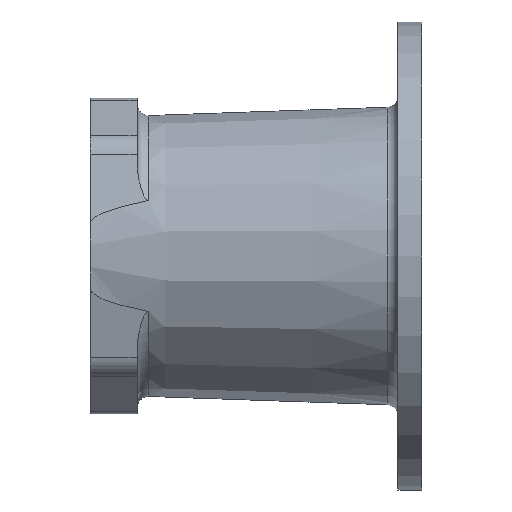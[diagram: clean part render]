
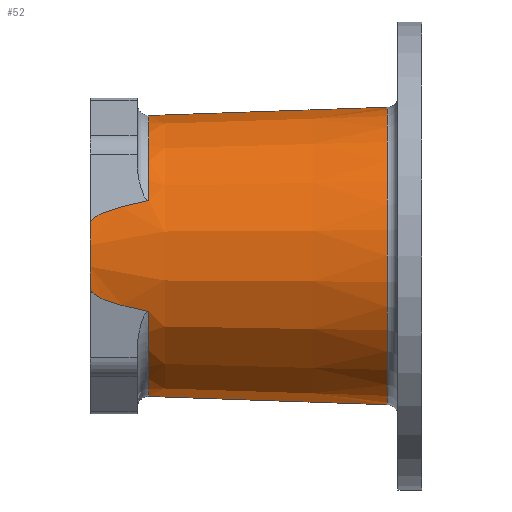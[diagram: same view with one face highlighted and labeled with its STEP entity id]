
A CAD part, left-side view. The second image highlights one B-rep face of the part: STEP entity #52.
In plain terms, the highlighted conical face has half-angle 2 degrees and reference radius 56.333 mm.
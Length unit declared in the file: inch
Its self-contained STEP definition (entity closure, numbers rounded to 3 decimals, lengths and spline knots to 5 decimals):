
#52 = ADVANCED_FACE ( 'NONE', ( #3719 ), #585, .T. ) ;
#63 = VECTOR ( 'NONE', #2436, 39.37008 ) ;
#119 = B_SPLINE_CURVE_WITH_KNOTS ( 'NONE', 3,
 ( #3454, #2888, #3480, #153, #4054, #717, #4653, #1272, #5259, #1827, #5841, #2377, #6401, #2941, #6942, #3499, #181, #4082, #739, #4683, #1297, #5290 ),
 .UNSPECIFIED., .F., .F.,
 ( 4, 2, 2, 2, 2, 2, 2, 2, 2, 2, 4 ),
 ( -0.00484, 0.00179, 0.00842, 0.01174, 0.01505, 0.01671, 0.01837, 0.0192, 0.02003, 0.02086, 0.02169 ),
 .UNSPECIFIED. ) ;
#128 = CARTESIAN_POINT ( 'NONE',  ( 0., 5.31, 0. ) ) ;
#153 = CARTESIAN_POINT ( 'NONE',  ( -2.0851, 4.71328, 0.81514 ) ) ;
#179 = VERTEX_POINT ( 'NONE', #2240 ) ;
#181 = CARTESIAN_POINT ( 'NONE',  ( -2.14041, 5.28003, 0.58497 ) ) ;
#250 = LINE ( 'NONE', #778, #1714 ) ;
#371 = CARTESIAN_POINT ( 'NONE',  ( 0., 4.37372, 0. ) ) ;
#456 = CARTESIAN_POINT ( 'NONE',  ( -2.15385, 5.31, -0.52902 ) ) ;
#474 = CARTESIAN_POINT ( 'NONE',  ( -2.12125, 5.16429, -0.6647 ) ) ;
#585 = CONICAL_SURFACE ( 'NONE', #2895, 2.21784, 0.035 ) ;
#691 = DIRECTION ( 'NONE',  ( 0., 0., -1. ) ) ;
#717 = CARTESIAN_POINT ( 'NONE',  ( -2.09905, 4.92252, 0.75707 ) ) ;
#739 = CARTESIAN_POINT ( 'NONE',  ( -2.14664, 5.29925, 0.55905 ) ) ;
#750 = ORIENTED_EDGE ( 'NONE', *, *, #6912, .T. ) ;
#778 = CARTESIAN_POINT ( 'NONE',  ( 0., 5.31, 2.21784 ) ) ;
#918 = CARTESIAN_POINT ( 'NONE',  ( -2.15645, 5.31, 0.51819 ) ) ;
#930 = CARTESIAN_POINT ( 'NONE',  ( 0., 0.55372, -2.38393 ) ) ;
#939 = DIRECTION ( 'NONE',  ( 0., 0., 1. ) ) ;
#1014 = AXIS2_PLACEMENT_3D ( 'NONE', #3245, #7252, #3809 ) ;
#1024 = CARTESIAN_POINT ( 'NONE',  ( -2.15134, 5.30758, -0.53948 ) ) ;
#1047 = CARTESIAN_POINT ( 'NONE',  ( -2.11267, 5.08578, -0.70039 ) ) ;
#1056 = AXIS2_PLACEMENT_3D ( 'NONE', #371, #4281, #939 ) ;
#1272 = CARTESIAN_POINT ( 'NONE',  ( -2.10903, 5.04592, 0.71555 ) ) ;
#1297 = CARTESIAN_POINT ( 'NONE',  ( -2.15388, 5.31, 0.52892 ) ) ;
#1494 = AXIS2_PLACEMENT_3D ( 'NONE', #2435, #6466, #2998 ) ;
#1568 = CARTESIAN_POINT ( 'NONE',  ( -2.15645, 5.31, -0.51819 ) ) ;
#1569 = CARTESIAN_POINT ( 'NONE',  ( -2.14439, 5.29328, -0.5684 ) ) ;
#1580 = ORIENTED_EDGE ( 'NONE', *, *, #2328, .T. ) ;
#1585 = CARTESIAN_POINT ( 'NONE',  ( -2.10214, 4.96343, -0.74422 ) ) ;
#1666 = B_SPLINE_CURVE_WITH_KNOTS ( 'NONE', 3,
 ( #4370, #456, #1024, #4979, #1569, #5581, #2115, #6135, #2675, #6695, #3234, #7234, #3797, #474, #4401, #1047, #5004, #1585, #5602, #2141, #6157, #2704, #6719, #3256 ),
 .UNSPECIFIED., .F., .F.,
 ( 4, 2, 2, 2, 2, 2, 2, 2, 2, 2, 2, 4 ),
 ( 0., 0.00083, 0.00167, 0.0025, 0.00333, 0.00417, 0.005, 0.00667, 0.01, 0.01334, 0.02001, 0.02668 ),
 .UNSPECIFIED. ) ;
#1714 = VECTOR ( 'NONE', #1849, 39.37008 ) ;
#1827 = CARTESIAN_POINT ( 'NONE',  ( -2.11911, 5.14581, 0.6736 ) ) ;
#1849 = DIRECTION ( 'NONE',  ( 0., -0.999, 0.035 ) ) ;
#2115 = CARTESIAN_POINT ( 'NONE',  ( -2.13847, 5.27209, -0.59305 ) ) ;
#2141 = CARTESIAN_POINT ( 'NONE',  ( -2.09021, 4.79714, -0.79386 ) ) ;
#2208 = ORIENTED_EDGE ( 'NONE', *, *, #4943, .T. ) ;
#2240 = CARTESIAN_POINT ( 'NONE',  ( -2.06715, 4.37372, -0.88983 ) ) ;
#2269 = CARTESIAN_POINT ( 'NONE',  ( -2.06715, 4.37372, 0.88983 ) ) ;
#2328 = EDGE_CURVE ( 'NONE', #6532, #4613, #4546, .T. ) ;
#2377 = CARTESIAN_POINT ( 'NONE',  ( -2.12631, 5.20334, 0.64364 ) ) ;
#2435 = CARTESIAN_POINT ( 'NONE',  ( 0., 0.55372, 0. ) ) ;
#2436 = DIRECTION ( 'NONE',  ( 0., -0.999, -0.035 ) ) ;
#2588 = ORIENTED_EDGE ( 'NONE', *, *, #3042, .T. ) ;
#2675 = CARTESIAN_POINT ( 'NONE',  ( -2.13341, 5.2475, -0.61409 ) ) ;
#2704 = CARTESIAN_POINT ( 'NONE',  ( -2.07559, 4.54393, -0.8547 ) ) ;
#2888 = CARTESIAN_POINT ( 'NONE',  ( -2.07125, 4.45898, 0.87279 ) ) ;
#2895 = AXIS2_PLACEMENT_3D ( 'NONE', #6680, #6610, #6729 ) ;
#2939 = EDGE_CURVE ( 'NONE', #2978, #5282, #3937, .T. ) ;
#2941 = CARTESIAN_POINT ( 'NONE',  ( -2.1335, 5.24801, 0.6137 ) ) ;
#2978 = VERTEX_POINT ( 'NONE', #7159 ) ;
#2998 = DIRECTION ( 'NONE',  ( 0., 0., -1. ) ) ;
#3022 = LINE ( 'NONE', #6467, #63 ) ;
#3042 = EDGE_CURVE ( 'NONE', #179, #5105, #6832, .T. ) ;
#3176 = ORIENTED_EDGE ( 'NONE', *, *, #6739, .T. ) ;
#3234 = CARTESIAN_POINT ( 'NONE',  ( -2.12893, 5.22071, -0.63272 ) ) ;
#3245 = CARTESIAN_POINT ( 'NONE',  ( 0., 4.37372, 0. ) ) ;
#3256 = CARTESIAN_POINT ( 'NONE',  ( -2.06715, 4.37372, -0.88983 ) ) ;
#3454 = CARTESIAN_POINT ( 'NONE',  ( -2.06715, 4.37372, 0.88983 ) ) ;
#3480 = CARTESIAN_POINT ( 'NONE',  ( -2.0756, 4.54403, 0.85468 ) ) ;
#3498 = ORIENTED_EDGE ( 'NONE', *, *, #6731, .T. ) ;
#3499 = CARTESIAN_POINT ( 'NONE',  ( -2.13854, 5.27242, 0.59273 ) ) ;
#3719 = FACE_OUTER_BOUND ( 'NONE', #4548, .T. ) ;
#3797 = CARTESIAN_POINT ( 'NONE',  ( -2.12494, 5.19281, -0.64935 ) ) ;
#3809 = DIRECTION ( 'NONE',  ( 0., 0., 1. ) ) ;
#3937 = CIRCLE ( 'NONE', #1056, 2.25054 ) ;
#3941 = VERTEX_POINT ( 'NONE', #1568 ) ;
#4030 = DIRECTION ( 'NONE',  ( 0., -1., 0. ) ) ;
#4054 = CARTESIAN_POINT ( 'NONE',  ( -2.09024, 4.79754, 0.79376 ) ) ;
#4082 = CARTESIAN_POINT ( 'NONE',  ( -2.14443, 5.29339, 0.56822 ) ) ;
#4220 = CARTESIAN_POINT ( 'NONE',  ( 0., 4.37372, -2.25054 ) ) ;
#4237 = ORIENTED_EDGE ( 'NONE', *, *, #4929, .F. ) ;
#4281 = DIRECTION ( 'NONE',  ( 0., -1., 0. ) ) ;
#4370 = CARTESIAN_POINT ( 'NONE',  ( -2.15645, 5.31, -0.51819 ) ) ;
#4401 = CARTESIAN_POINT ( 'NONE',  ( -2.119, 5.14487, -0.67404 ) ) ;
#4546 = CIRCLE ( 'NONE', #1494, 2.38393 ) ;
#4548 = EDGE_LOOP ( 'NONE', ( #4237, #6462, #3176, #3498, #750, #2588, #2208, #1580 ) ) ;
#4580 = VERTEX_POINT ( 'NONE', #918 ) ;
#4613 = VERTEX_POINT ( 'NONE', #6625 ) ;
#4653 = CARTESIAN_POINT ( 'NONE',  ( -2.10218, 4.96393, 0.74406 ) ) ;
#4683 = CARTESIAN_POINT ( 'NONE',  ( -2.15133, 5.30755, 0.53951 ) ) ;
#4929 = EDGE_CURVE ( 'NONE', #2978, #4613, #250, .T. ) ;
#4943 = EDGE_CURVE ( 'NONE', #5105, #6532, #3022, .T. ) ;
#4979 = CARTESIAN_POINT ( 'NONE',  ( -2.14656, 5.29909, -0.55937 ) ) ;
#5004 = CARTESIAN_POINT ( 'NONE',  ( -2.10898, 5.04536, -0.71576 ) ) ;
#5105 = VERTEX_POINT ( 'NONE', #4220 ) ;
#5259 = CARTESIAN_POINT ( 'NONE',  ( -2.11273, 5.08646, 0.70013 ) ) ;
#5282 = VERTEX_POINT ( 'NONE', #2269 ) ;
#5290 = CARTESIAN_POINT ( 'NONE',  ( -2.15645, 5.31, 0.51819 ) ) ;
#5523 = CIRCLE ( 'NONE', #6212, 2.21784 ) ;
#5581 = CARTESIAN_POINT ( 'NONE',  ( -2.14033, 5.27973, -0.58531 ) ) ;
#5602 = CARTESIAN_POINT ( 'NONE',  ( -2.09901, 4.92198, -0.75723 ) ) ;
#5841 = CARTESIAN_POINT ( 'NONE',  ( -2.12137, 5.1653, 0.6642 ) ) ;
#6135 = CARTESIAN_POINT ( 'NONE',  ( -2.13501, 5.256, -0.60742 ) ) ;
#6157 = CARTESIAN_POINT ( 'NONE',  ( -2.08509, 4.71303, -0.8152 ) ) ;
#6212 = AXIS2_PLACEMENT_3D ( 'NONE', #128, #4030, #691 ) ;
#6401 = CARTESIAN_POINT ( 'NONE',  ( -2.12899, 5.2219, 0.6325 ) ) ;
#6462 = ORIENTED_EDGE ( 'NONE', *, *, #2939, .T. ) ;
#6466 = DIRECTION ( 'NONE',  ( 0., 1., 0. ) ) ;
#6467 = CARTESIAN_POINT ( 'NONE',  ( 0., 5.31, -2.21784 ) ) ;
#6532 = VERTEX_POINT ( 'NONE', #930 ) ;
#6610 = DIRECTION ( 'NONE',  ( 0., -1., 0. ) ) ;
#6625 = CARTESIAN_POINT ( 'NONE',  ( 0., 0.55372, 2.38393 ) ) ;
#6680 = CARTESIAN_POINT ( 'NONE',  ( 0., 5.31, 0. ) ) ;
#6695 = CARTESIAN_POINT ( 'NONE',  ( -2.13037, 5.22986, -0.62674 ) ) ;
#6719 = CARTESIAN_POINT ( 'NONE',  ( -2.07124, 4.45893, -0.8728 ) ) ;
#6729 = DIRECTION ( 'NONE',  ( 0., 0., -1. ) ) ;
#6731 = EDGE_CURVE ( 'NONE', #4580, #3941, #5523, .T. ) ;
#6739 = EDGE_CURVE ( 'NONE', #5282, #4580, #119, .T. ) ;
#6832 = CIRCLE ( 'NONE', #1014, 2.25054 ) ;
#6912 = EDGE_CURVE ( 'NONE', #3941, #179, #1666, .T. ) ;
#6942 = CARTESIAN_POINT ( 'NONE',  ( -2.1351, 5.25643, 0.60707 ) ) ;
#7159 = CARTESIAN_POINT ( 'NONE',  ( 0., 4.37372, 2.25054 ) ) ;
#7234 = CARTESIAN_POINT ( 'NONE',  ( -2.12622, 5.2022, -0.64401 ) ) ;
#7252 = DIRECTION ( 'NONE',  ( 0., -1., 0. ) ) ;
